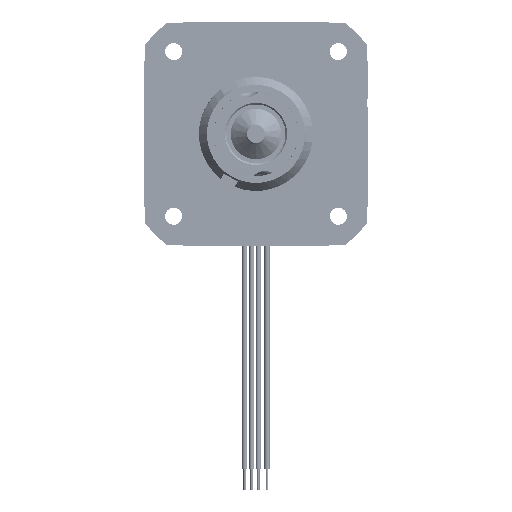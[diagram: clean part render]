
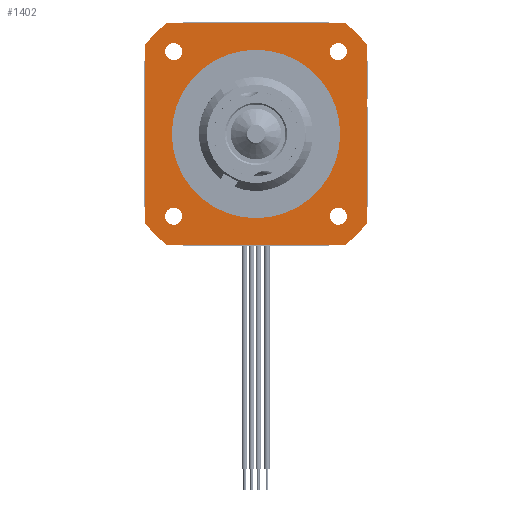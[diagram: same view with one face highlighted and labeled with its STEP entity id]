
A CAD part, front view. The second image highlights one B-rep face of the part: STEP entity #1402.
In plain terms, the highlighted planar face has unit normal (0, -1, 0).
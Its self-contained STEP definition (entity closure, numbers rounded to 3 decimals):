
#353=CARTESIAN_POINT('',(16.707,0.,-21.));
#354=VERTEX_POINT('',#353);
#361=CARTESIAN_POINT('',(-16.707,0.,-21.));
#362=VERTEX_POINT('',#361);
#363=CARTESIAN_POINT('',(-16.707,0.,-21.));
#364=DIRECTION('',(1.,0.,0.));
#365=VECTOR('',#364,33.414);
#366=LINE('',#363,#365);
#367=EDGE_CURVE('',#362,#354,#366,.T.);
#393=CARTESIAN_POINT('',(-21.,0.,-16.707));
#394=VERTEX_POINT('',#393);
#395=CARTESIAN_POINT('',(0.,0.,0.));
#396=DIRECTION('',(-0.783,0.,-0.623));
#397=DIRECTION('',(0.,-1.,0.));
#398=AXIS2_PLACEMENT_3D('',#395,#397,#396);
#399=CIRCLE('',#398,26.835);
#400=EDGE_CURVE('',#394,#362,#399,.T.);
#475=CARTESIAN_POINT('',(-21.,0.,16.707));
#476=VERTEX_POINT('',#475);
#477=CARTESIAN_POINT('',(-21.,0.,16.707));
#478=DIRECTION('',(0.,0.,-1.));
#479=VECTOR('',#478,33.414);
#480=LINE('',#477,#479);
#481=EDGE_CURVE('',#476,#394,#480,.T.);
#507=CARTESIAN_POINT('',(-16.707,0.,21.));
#508=VERTEX_POINT('',#507);
#509=CARTESIAN_POINT('',(0.,0.,0.));
#510=DIRECTION('',(-0.623,0.,0.783));
#511=DIRECTION('',(0.,-1.,-0.));
#512=AXIS2_PLACEMENT_3D('',#509,#511,#510);
#513=CIRCLE('',#512,26.835);
#514=EDGE_CURVE('',#508,#476,#513,.T.);
#589=CARTESIAN_POINT('',(16.707,0.,21.));
#590=VERTEX_POINT('',#589);
#591=CARTESIAN_POINT('',(16.707,0.,21.));
#592=DIRECTION('',(-1.,0.,0.));
#593=VECTOR('',#592,33.414);
#594=LINE('',#591,#593);
#595=EDGE_CURVE('',#590,#508,#594,.T.);
#621=CARTESIAN_POINT('',(21.,0.,16.707));
#622=VERTEX_POINT('',#621);
#623=CARTESIAN_POINT('',(0.,0.,0.));
#624=DIRECTION('',(0.783,0.,0.623));
#625=DIRECTION('',(-0.,-1.,0.));
#626=AXIS2_PLACEMENT_3D('',#623,#625,#624);
#627=CIRCLE('',#626,26.835);
#628=EDGE_CURVE('',#622,#590,#627,.T.);
#703=CARTESIAN_POINT('',(21.,0.,-16.707));
#704=VERTEX_POINT('',#703);
#705=CARTESIAN_POINT('',(21.,0.,-16.707));
#706=DIRECTION('',(0.,0.,1.));
#707=VECTOR('',#706,33.414);
#708=LINE('',#705,#707);
#709=EDGE_CURVE('',#704,#622,#708,.T.);
#733=CARTESIAN_POINT('',(0.,0.,0.));
#734=DIRECTION('',(0.623,0.,-0.783));
#735=DIRECTION('',(0.,-1.,0.));
#736=AXIS2_PLACEMENT_3D('',#733,#735,#734);
#737=CIRCLE('',#736,26.835);
#738=EDGE_CURVE('',#354,#704,#737,.T.);
#1332=CARTESIAN_POINT('',(0.,0.,0.));
#1333=DIRECTION('',(1.,0.,0.));
#1334=DIRECTION('',(0.,-1.,0.));
#1335=AXIS2_PLACEMENT_3D('',#1332,#1334,#1333);
#1336=PLANE('',#1335);
#1337=ORIENTED_EDGE('',*,*,#400,.T.);
#1338=ORIENTED_EDGE('',*,*,#367,.T.);
#1339=ORIENTED_EDGE('',*,*,#738,.T.);
#1340=ORIENTED_EDGE('',*,*,#709,.T.);
#1341=ORIENTED_EDGE('',*,*,#628,.T.);
#1342=ORIENTED_EDGE('',*,*,#595,.T.);
#1343=ORIENTED_EDGE('',*,*,#514,.T.);
#1344=ORIENTED_EDGE('',*,*,#481,.T.);
#1345=EDGE_LOOP('',(#1337,#1338,#1339,#1340,#1341,#1342,#1343,#1344));
#1346=FACE_OUTER_BOUND('',#1345,.T.);
#1347=CARTESIAN_POINT('',(15.875,0.,0.));
#1348=VERTEX_POINT('',#1347);
#1349=CARTESIAN_POINT('',(0.,0.,0.));
#1350=DIRECTION('',(1.,-0.,-0.));
#1351=DIRECTION('',(0.,-1.,0.));
#1352=AXIS2_PLACEMENT_3D('',#1349,#1351,#1350);
#1353=CIRCLE('',#1352,15.875);
#1354=EDGE_CURVE('',#1348,#1348,#1353,.T.);
#1355=ORIENTED_EDGE('E93',*,*,#1354,.F.);
#1356=EDGE_LOOP('',(#1355));
#1357=FACE_BOUND('',#1356,.T.);
#1358=CARTESIAN_POINT('',(15.52,0.,17.12));
#1359=VERTEX_POINT('',#1358);
#1360=CARTESIAN_POINT('',(15.52,0.,15.52));
#1361=DIRECTION('',(0.,-0.,1.));
#1362=DIRECTION('',(0.,1.,0.));
#1363=AXIS2_PLACEMENT_3D('',#1360,#1362,#1361);
#1364=CIRCLE('',#1363,1.6);
#1365=EDGE_CURVE('',#1359,#1359,#1364,.T.);
#1366=ORIENTED_EDGE('E108',*,*,#1365,.T.);
#1367=EDGE_LOOP('',(#1366));
#1368=FACE_BOUND('',#1367,.T.);
#1369=CARTESIAN_POINT('',(-15.52,0.,17.12));
#1370=VERTEX_POINT('',#1369);
#1371=CARTESIAN_POINT('',(-15.52,0.,15.52));
#1372=DIRECTION('',(0.,-0.,1.));
#1373=DIRECTION('',(0.,1.,0.));
#1374=AXIS2_PLACEMENT_3D('',#1371,#1373,#1372);
#1375=CIRCLE('',#1374,1.6);
#1376=EDGE_CURVE('',#1370,#1370,#1375,.T.);
#1377=ORIENTED_EDGE('E110',*,*,#1376,.T.);
#1378=EDGE_LOOP('',(#1377));
#1379=FACE_BOUND('',#1378,.T.);
#1380=CARTESIAN_POINT('',(15.52,0.,-13.92));
#1381=VERTEX_POINT('',#1380);
#1382=CARTESIAN_POINT('',(15.52,0.,-15.52));
#1383=DIRECTION('',(-0.,-0.,1.));
#1384=DIRECTION('',(-0.,1.,0.));
#1385=AXIS2_PLACEMENT_3D('',#1382,#1384,#1383);
#1386=CIRCLE('',#1385,1.6);
#1387=EDGE_CURVE('',#1381,#1381,#1386,.T.);
#1388=ORIENTED_EDGE('E106',*,*,#1387,.T.);
#1389=EDGE_LOOP('',(#1388));
#1390=FACE_BOUND('',#1389,.T.);
#1391=CARTESIAN_POINT('',(-15.52,0.,-13.92));
#1392=VERTEX_POINT('',#1391);
#1393=CARTESIAN_POINT('',(-15.52,0.,-15.52));
#1394=DIRECTION('',(0.,-0.,1.));
#1395=DIRECTION('',(0.,1.,0.));
#1396=AXIS2_PLACEMENT_3D('',#1393,#1395,#1394);
#1397=CIRCLE('',#1396,1.6);
#1398=EDGE_CURVE('',#1392,#1392,#1397,.T.);
#1399=ORIENTED_EDGE('E104',*,*,#1398,.T.);
#1400=EDGE_LOOP('',(#1399));
#1401=FACE_BOUND('',#1400,.T.);
#1402=ADVANCED_FACE('F34',(#1346,#1357,#1368,#1379,#1390,#1401),#1336,.T.);
